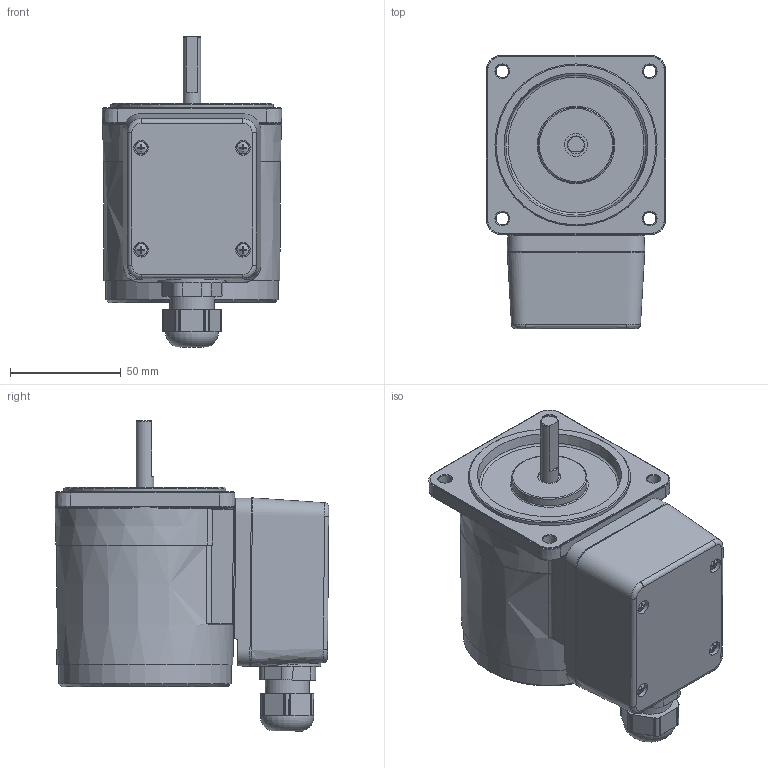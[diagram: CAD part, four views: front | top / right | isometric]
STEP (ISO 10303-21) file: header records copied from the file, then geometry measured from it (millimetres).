
FILE_DESCRIPTION (( 'STEP AP214' ), '1' );
FILE_NAME ('8IDD¤±-15-T.STEP', '2025-01-13T01:47:44', ( '' ), ( '' ), 'SwSTEP 2.0', 'SolidWorks 2024', '' );
FILE_SCHEMA (( 'AUTOMOTIVE_DESIGN' ));
Length unit declared in the file: millimetre
Products named in the file (3): TB6276; 8IDDㅁ-15-T; 8IDDㅁ-15
Assembly tree (2 placements, depth 2):
  8IDDㅁ-15-T
    8IDDㅁ-15
    TB6276
Bounding box: 81 x 123.45 x 139.94 mm (x, y, z)
Volume: 651190.7 mm3; surface area: 61981.6 mm2
Topology: 2 solids, 2 shells, 346 faces, 842 edges, 537 vertices
Faces by surface type: plane 143, cylinder 91, torus 39, cone 39, bspline 32, sphere 2
Full cylindrical faces by diameter (mm): 5.5 x4, 6.6 x4, 8 x2, 10.5 x1, 13 x1, 20 x1, 34 x1, 73.1 x1
Entity records: 12228 total; most frequent: CARTESIAN_POINT 4534, DIRECTION 1574, ORIENTED_EDGE 1488, EDGE_CURVE 744, AXIS2_PLACEMENT_3D 634, VERTEX_POINT 520, EDGE_LOOP 472, FACE_OUTER_BOUND 390
